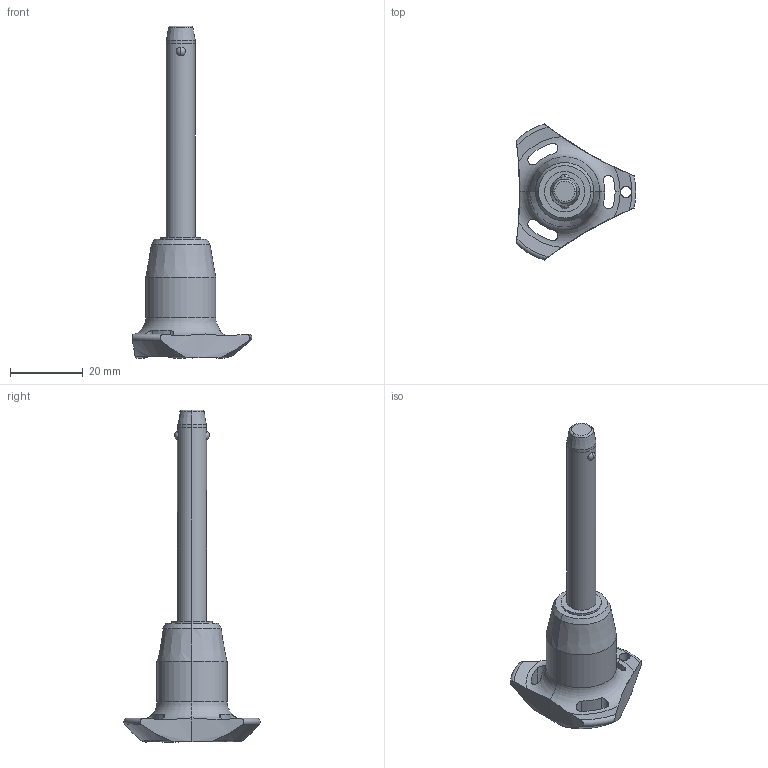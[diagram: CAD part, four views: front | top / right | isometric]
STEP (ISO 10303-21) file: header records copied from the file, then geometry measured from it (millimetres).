
FILE_DESCRIPTION (( 'STEP AP203' ), '1' );
FILE_NAME ('QR1716.M08-050-T.step', '2025-11-13T10:30:43', ( '' ), ( '' ), 'SwSTEP 2.0', 'SolidWorks 2019', '' );
FILE_SCHEMA (( 'CONFIG_CONTROL_DESIGN' ));
Length unit declared in the file: millimetre
Products named in the file (1): QR1716.M08-050-T
Bounding box: 33 x 37.51 x 91.5 mm (x, y, z)
Volume: 13163.3 mm3; surface area: 5311.4 mm2
Topology: 1 solids, 1 shells, 68 faces, 180 edges, 113 vertices
Faces by surface type: cylinder 32, cone 14, torus 11, sphere 6, plane 5
Entity records: 2826 total; most frequent: CARTESIAN_POINT 1086, ORIENTED_EDGE 360, DIRECTION 347, EDGE_CURVE 180, AXIS2_PLACEMENT_3D 154, VERTEX_POINT 113, CIRCLE 85, EDGE_LOOP 75
